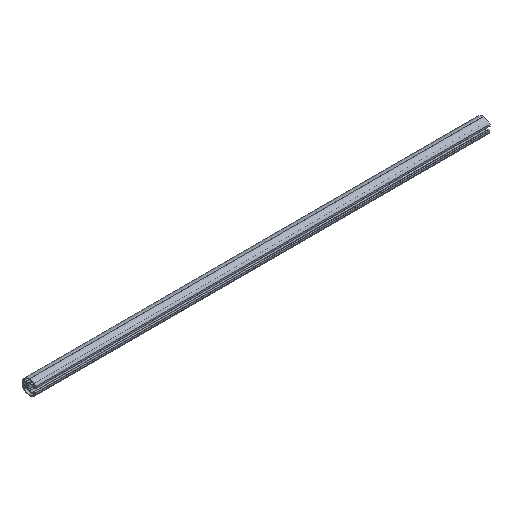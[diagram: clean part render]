
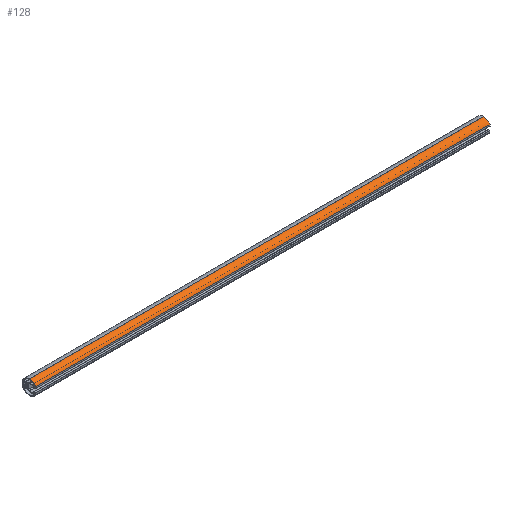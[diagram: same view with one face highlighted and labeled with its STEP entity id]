
A CAD part, isometric view. The second image highlights one B-rep face of the part: STEP entity #128.
In plain terms, the highlighted cylindrical face has radius 16 mm (diameter 32 mm), a partial arc.
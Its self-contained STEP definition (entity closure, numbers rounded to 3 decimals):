
#23 = CARTESIAN_POINT ( 'NONE',  ( 1000., -22.5, 7.746 ) ) ;
#128 = ADVANCED_FACE ( 'NONE', ( #802 ), #1735, .T. ) ;
#165 = CIRCLE ( 'NONE', #408, 16. ) ;
#215 = DIRECTION ( 'NONE',  ( -1., 0., 0. ) ) ;
#230 = CARTESIAN_POINT ( 'NONE',  ( 1000., -8.5, 0. ) ) ;
#354 = CARTESIAN_POINT ( 'NONE',  ( 1000., -8.5, 16. ) ) ;
#408 = AXIS2_PLACEMENT_3D ( 'NONE', #471, #2011, #2402 ) ;
#471 = CARTESIAN_POINT ( 'NONE',  ( 1000., -8.5, 0. ) ) ;
#503 = EDGE_CURVE ( 'NONE', #2007, #2260, #2132, .T. ) ;
#529 = CIRCLE ( 'NONE', #1097, 16. ) ;
#647 = VECTOR ( 'NONE', #2414, 1000. ) ;
#673 = CARTESIAN_POINT ( 'NONE',  ( 1000., -22.5, 7.746 ) ) ;
#759 = ORIENTED_EDGE ( 'NONE', *, *, #1135, .F. ) ;
#802 = FACE_OUTER_BOUND ( 'NONE', #1871, .T. ) ;
#941 = AXIS2_PLACEMENT_3D ( 'NONE', #230, #1578, #2341 ) ;
#1097 = AXIS2_PLACEMENT_3D ( 'NONE', #1682, #1488, #2246 ) ;
#1135 = EDGE_CURVE ( 'NONE', #2191, #1875, #2401, .T. ) ;
#1178 = CARTESIAN_POINT ( 'NONE',  ( 1000., -8.5, 16. ) ) ;
#1254 = EDGE_CURVE ( 'NONE', #2260, #1875, #529, .T. ) ;
#1263 = CARTESIAN_POINT ( 'NONE',  ( 0., -22.5, 7.746 ) ) ;
#1391 = VECTOR ( 'NONE', #215, 1000. ) ;
#1488 = DIRECTION ( 'NONE',  ( 1., 0., 0. ) ) ;
#1578 = DIRECTION ( 'NONE',  ( -1., 0., 0. ) ) ;
#1608 = CARTESIAN_POINT ( 'NONE',  ( 0., -8.5, 16. ) ) ;
#1682 = CARTESIAN_POINT ( 'NONE',  ( 0., -8.5, 0. ) ) ;
#1724 = ORIENTED_EDGE ( 'NONE', *, *, #1254, .T. ) ;
#1735 = CYLINDRICAL_SURFACE ( 'NONE', #941, 16. ) ;
#1871 = EDGE_LOOP ( 'NONE', ( #2042, #2118, #1724, #759 ) ) ;
#1875 = VERTEX_POINT ( 'NONE', #1263 ) ;
#2007 = VERTEX_POINT ( 'NONE', #354 ) ;
#2011 = DIRECTION ( 'NONE',  ( 1., 0., 0. ) ) ;
#2042 = ORIENTED_EDGE ( 'NONE', *, *, #2342, .F. ) ;
#2118 = ORIENTED_EDGE ( 'NONE', *, *, #503, .T. ) ;
#2132 = LINE ( 'NONE', #1178, #1391 ) ;
#2191 = VERTEX_POINT ( 'NONE', #23 ) ;
#2246 = DIRECTION ( 'NONE',  ( 0., 0., -1. ) ) ;
#2260 = VERTEX_POINT ( 'NONE', #1608 ) ;
#2341 = DIRECTION ( 'NONE',  ( 0., 0., 1. ) ) ;
#2342 = EDGE_CURVE ( 'NONE', #2007, #2191, #165, .T. ) ;
#2401 = LINE ( 'NONE', #673, #647 ) ;
#2402 = DIRECTION ( 'NONE',  ( 0., 0., -1. ) ) ;
#2414 = DIRECTION ( 'NONE',  ( -1., 0., 0. ) ) ;
